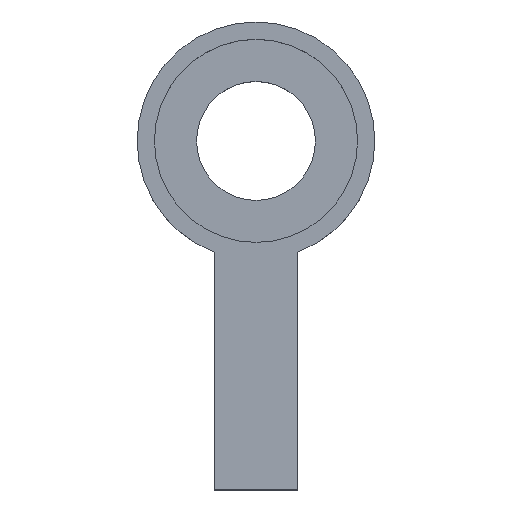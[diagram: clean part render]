
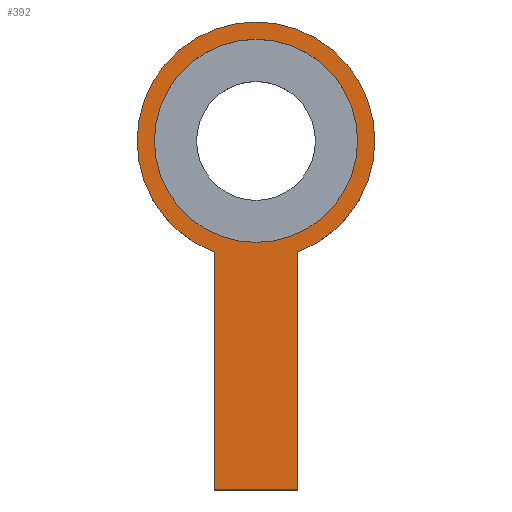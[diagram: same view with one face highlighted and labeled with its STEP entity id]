
A CAD part, top view. The second image highlights one B-rep face of the part: STEP entity #392.
In plain terms, the highlighted planar face has unit normal (0, 0, 1).
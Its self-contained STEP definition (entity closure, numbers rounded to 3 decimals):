
#14 = ORIENTED_EDGE ( 'NONE', *, *, #464, .T. ) ;
#28 = AXIS2_PLACEMENT_3D ( 'NONE', #421, #270, #387 ) ;
#35 = CARTESIAN_POINT ( 'NONE',  ( 0., 0., 3.5 ) ) ;
#45 = VECTOR ( 'NONE', #493, 1000. ) ;
#48 = CIRCLE ( 'NONE', #415, 10. ) ;
#52 = DIRECTION ( 'NONE',  ( 0., 1., 0. ) ) ;
#56 = FACE_BOUND ( 'NONE', #447, .T. ) ;
#82 = CARTESIAN_POINT ( 'NONE',  ( 0., 0., 3.5 ) ) ;
#91 = CARTESIAN_POINT ( 'NONE',  ( 10., 0., 3.5 ) ) ;
#111 = VERTEX_POINT ( 'NONE', #311 ) ;
#125 = ORIENTED_EDGE ( 'NONE', *, *, #339, .F. ) ;
#138 = CARTESIAN_POINT ( 'NONE',  ( 0., 0., 3.5 ) ) ;
#139 = EDGE_CURVE ( 'NONE', #354, #331, #366, .T. ) ;
#140 = EDGE_CURVE ( 'NONE', #458, #287, #48, .T. ) ;
#144 = DIRECTION ( 'NONE',  ( 1., 0., 0. ) ) ;
#146 = LINE ( 'NONE', #175, #153 ) ;
#150 = AXIS2_PLACEMENT_3D ( 'NONE', #138, #485, #482 ) ;
#153 = VECTOR ( 'NONE', #238, 1000. ) ;
#159 = AXIS2_PLACEMENT_3D ( 'NONE', #82, #406, #144 ) ;
#164 = ORIENTED_EDGE ( 'NONE', *, *, #432, .T. ) ;
#175 = CARTESIAN_POINT ( 'NONE',  ( -3.5, -9.367, 3.5 ) ) ;
#190 = DIRECTION ( 'NONE',  ( 1., 0., 0. ) ) ;
#205 = EDGE_LOOP ( 'NONE', ( #14, #317, #504, #337, #271, #164 ) ) ;
#214 = CARTESIAN_POINT ( 'NONE',  ( -8.55, 0., 3.5 ) ) ;
#220 = FACE_OUTER_BOUND ( 'NONE', #205, .T. ) ;
#231 = CIRCLE ( 'NONE', #159, 8.55 ) ;
#235 = PLANE ( 'NONE',  #28 ) ;
#236 = CARTESIAN_POINT ( 'NONE',  ( 3.5, -9.367, 3.5 ) ) ;
#238 = DIRECTION ( 'NONE',  ( 0., -1., 0. ) ) ;
#239 = CARTESIAN_POINT ( 'NONE',  ( 8.55, 0., 3.5 ) ) ;
#245 = CIRCLE ( 'NONE', #150, 10. ) ;
#247 = AXIS2_PLACEMENT_3D ( 'NONE', #306, #375, #278 ) ;
#249 = VECTOR ( 'NONE', #52, 1000. ) ;
#256 = CIRCLE ( 'NONE', #247, 10. ) ;
#260 = EDGE_CURVE ( 'NONE', #111, #354, #146, .T. ) ;
#263 = EDGE_CURVE ( 'NONE', #324, #505, #231, .T. ) ;
#270 = DIRECTION ( 'NONE',  ( 0., 0., 1. ) ) ;
#271 = ORIENTED_EDGE ( 'NONE', *, *, #139, .T. ) ;
#278 = DIRECTION ( 'NONE',  ( 1., 0., 0. ) ) ;
#287 = VERTEX_POINT ( 'NONE', #501 ) ;
#306 = CARTESIAN_POINT ( 'NONE',  ( 0., 0., 3.5 ) ) ;
#311 = CARTESIAN_POINT ( 'NONE',  ( -3.5, -9.367, 3.5 ) ) ;
#317 = ORIENTED_EDGE ( 'NONE', *, *, #140, .T. ) ;
#322 = VERTEX_POINT ( 'NONE', #236 ) ;
#324 = VERTEX_POINT ( 'NONE', #239 ) ;
#331 = VERTEX_POINT ( 'NONE', #379 ) ;
#332 = ORIENTED_EDGE ( 'NONE', *, *, #263, .F. ) ;
#337 = ORIENTED_EDGE ( 'NONE', *, *, #260, .T. ) ;
#339 = EDGE_CURVE ( 'NONE', #505, #324, #383, .T. ) ;
#354 = VERTEX_POINT ( 'NONE', #494 ) ;
#356 = AXIS2_PLACEMENT_3D ( 'NONE', #381, #412, #487 ) ;
#366 = LINE ( 'NONE', #368, #45 ) ;
#368 = CARTESIAN_POINT ( 'NONE',  ( -3.5, -29.367, 3.5 ) ) ;
#375 = DIRECTION ( 'NONE',  ( 0., 0., 1. ) ) ;
#379 = CARTESIAN_POINT ( 'NONE',  ( 3.5, -29.367, 3.5 ) ) ;
#381 = CARTESIAN_POINT ( 'NONE',  ( 0., 0., 3.5 ) ) ;
#383 = CIRCLE ( 'NONE', #356, 8.55 ) ;
#387 = DIRECTION ( 'NONE',  ( 1., 0., 0. ) ) ;
#392 = ADVANCED_FACE ( 'NONE', ( #56, #220 ), #235, .T. ) ;
#406 = DIRECTION ( 'NONE',  ( 0., 0., 1. ) ) ;
#412 = DIRECTION ( 'NONE',  ( 0., 0., 1. ) ) ;
#413 = DIRECTION ( 'NONE',  ( 0., 0., 1. ) ) ;
#415 = AXIS2_PLACEMENT_3D ( 'NONE', #35, #413, #190 ) ;
#421 = CARTESIAN_POINT ( 'NONE',  ( 0., 0., 3.5 ) ) ;
#425 = LINE ( 'NONE', #469, #249 ) ;
#432 = EDGE_CURVE ( 'NONE', #331, #322, #425, .T. ) ;
#447 = EDGE_LOOP ( 'NONE', ( #332, #125 ) ) ;
#458 = VERTEX_POINT ( 'NONE', #91 ) ;
#464 = EDGE_CURVE ( 'NONE', #322, #458, #256, .T. ) ;
#469 = CARTESIAN_POINT ( 'NONE',  ( 3.5, -29.367, 3.5 ) ) ;
#477 = EDGE_CURVE ( 'NONE', #287, #111, #245, .T. ) ;
#482 = DIRECTION ( 'NONE',  ( 1., 0., 0. ) ) ;
#485 = DIRECTION ( 'NONE',  ( 0., 0., 1. ) ) ;
#487 = DIRECTION ( 'NONE',  ( 1., 0., 0. ) ) ;
#493 = DIRECTION ( 'NONE',  ( 1., 0., 0. ) ) ;
#494 = CARTESIAN_POINT ( 'NONE',  ( -3.5, -29.367, 3.5 ) ) ;
#501 = CARTESIAN_POINT ( 'NONE',  ( -10., 0., 3.5 ) ) ;
#504 = ORIENTED_EDGE ( 'NONE', *, *, #477, .T. ) ;
#505 = VERTEX_POINT ( 'NONE', #214 ) ;
